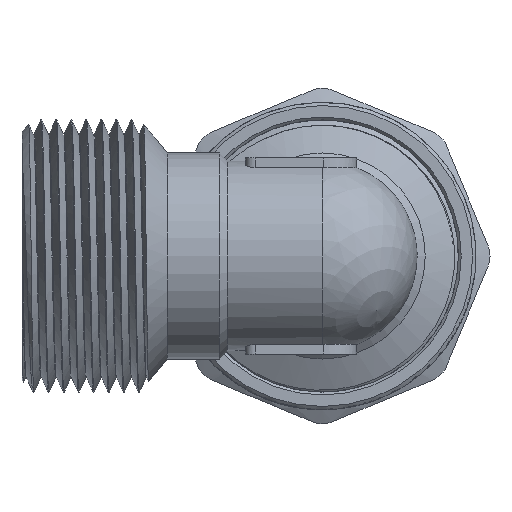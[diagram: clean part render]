
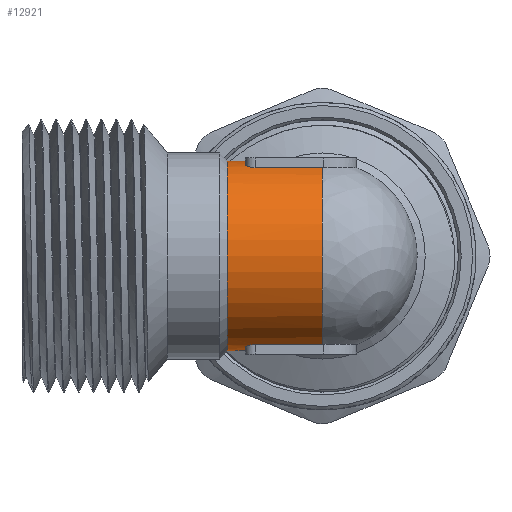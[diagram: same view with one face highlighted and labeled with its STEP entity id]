
A CAD part, left-side view. The second image highlights one B-rep face of the part: STEP entity #12921.
In plain terms, the highlighted cylindrical face has radius 14.5 mm (diameter 29 mm), a full revolution.
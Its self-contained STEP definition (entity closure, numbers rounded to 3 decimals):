
#618=ELLIPSE('',#13654,20.506,14.5);
#619=ELLIPSE('',#13657,20.506,14.5);
#662=CIRCLE('',#13616,14.5);
#663=CIRCLE('',#13618,14.5);
#682=CIRCLE('',#13659,14.5);
#690=CIRCLE('',#13671,14.5);
#1181=FACE_OUTER_BOUND('',#1893,.T.);
#1893=EDGE_LOOP('',(#9289,#9290,#9291,#9292,#9293,#9294,#9295,#9296,#9297,
#9298,#9299,#9300,#9301,#9302,#9303,#9304));
#2576=B_SPLINE_CURVE_WITH_KNOTS('',3,(#19620,#19621,#19622,#19623,#19624,
#19625,#19626,#19627,#19628,#19629),.UNSPECIFIED.,.F.,.F.,(4,2,2,2,4),(0.,
0.057,0.113,0.172,0.232),
 .UNSPECIFIED.);
#2577=B_SPLINE_CURVE_WITH_KNOTS('',3,(#19635,#19636,#19637,#19638,#19639,
#19640,#19641,#19642,#19643,#19644),.UNSPECIFIED.,.F.,.F.,(4,2,2,2,4),(-0.232,
-0.172,-0.113,-0.057,0.),
 .UNSPECIFIED.);
#2578=B_SPLINE_CURVE_WITH_KNOTS('',3,(#19661,#19662,#19663,#19664,#19665,
#19666,#19667,#19668,#19669,#19670),.UNSPECIFIED.,.F.,.F.,(4,2,2,2,4),(0.229,
0.288,0.347,0.404,0.461),
 .UNSPECIFIED.);
#2579=B_SPLINE_CURVE_WITH_KNOTS('',3,(#19674,#19675,#19676,#19677,#19678,
#19679,#19680,#19681,#19682,#19683),.UNSPECIFIED.,.F.,.F.,(4,2,2,2,4),(0.461,
0.517,0.574,0.633,0.692),
 .UNSPECIFIED.);
#2581=B_SPLINE_CURVE_WITH_KNOTS('',3,(#19701,#19702,#19703,#19704,#19705,
#19706,#19707,#19708),.UNSPECIFIED.,.F.,.F.,(4,2,2,4),(0.368,
0.371,0.427,0.483),.UNSPECIFIED.);
#2583=B_SPLINE_CURVE_WITH_KNOTS('',3,(#19720,#19721,#19722,#19723,#19724,
#19725,#19726,#19727),.UNSPECIFIED.,.F.,.F.,(4,2,2,4),(0.483,
0.539,0.595,0.598),.UNSPECIFIED.);
#3513=LINE('',#19577,#4360);
#3517=LINE('',#19586,#4364);
#3523=LINE('',#19614,#4370);
#3554=LINE('',#19830,#4401);
#4360=VECTOR('',#14710,10.);
#4364=VECTOR('',#14716,10.);
#4370=VECTOR('',#14730,10.);
#4401=VECTOR('',#14831,10.);
#5221=VERTEX_POINT('',#19575);
#5222=VERTEX_POINT('',#19576);
#5225=VERTEX_POINT('',#19584);
#5226=VERTEX_POINT('',#19585);
#5233=VERTEX_POINT('',#19611);
#5234=VERTEX_POINT('',#19613);
#5236=VERTEX_POINT('',#19619);
#5238=VERTEX_POINT('',#19634);
#5240=VERTEX_POINT('',#19649);
#5242=VERTEX_POINT('',#19655);
#5244=VERTEX_POINT('',#19673);
#5247=VERTEX_POINT('',#19689);
#5249=VERTEX_POINT('',#19710);
#5272=VERTEX_POINT('',#19827);
#5276=VERTEX_POINT('',#19854);
#6728=EDGE_CURVE('',#5221,#5222,#3513,.T.);
#6732=EDGE_CURVE('',#5225,#5226,#3517,.T.);
#6741=EDGE_CURVE('',#5234,#5233,#3523,.T.);
#6744=EDGE_CURVE('',#5222,#5236,#2576,.T.);
#6747=EDGE_CURVE('',#5238,#5225,#2577,.T.);
#6750=EDGE_CURVE('',#5236,#5240,#662,.T.);
#6753=EDGE_CURVE('',#5242,#5238,#663,.T.);
#6756=EDGE_CURVE('',#5240,#5234,#2578,.T.);
#6758=EDGE_CURVE('',#5244,#5242,#2579,.T.);
#6764=EDGE_CURVE('',#5247,#5221,#2581,.T.);
#6766=EDGE_CURVE('',#5226,#5249,#2583,.T.);
#6800=EDGE_CURVE('',#5272,#5244,#3554,.T.);
#6808=EDGE_CURVE('',#5247,#5276,#618,.T.);
#6812=EDGE_CURVE('',#5276,#5249,#619,.T.);
#6813=EDGE_CURVE('',#5272,#5233,#682,.T.);
#6830=EDGE_CURVE('',#5276,#5276,#690,.T.);
#9289=ORIENTED_EDGE('',*,*,#6766,.T.);
#9290=ORIENTED_EDGE('',*,*,#6812,.F.);
#9291=ORIENTED_EDGE('',*,*,#6830,.F.);
#9292=ORIENTED_EDGE('',*,*,#6808,.F.);
#9293=ORIENTED_EDGE('',*,*,#6764,.T.);
#9294=ORIENTED_EDGE('',*,*,#6728,.T.);
#9295=ORIENTED_EDGE('',*,*,#6744,.T.);
#9296=ORIENTED_EDGE('',*,*,#6750,.T.);
#9297=ORIENTED_EDGE('',*,*,#6756,.T.);
#9298=ORIENTED_EDGE('',*,*,#6741,.T.);
#9299=ORIENTED_EDGE('',*,*,#6813,.F.);
#9300=ORIENTED_EDGE('',*,*,#6800,.T.);
#9301=ORIENTED_EDGE('',*,*,#6758,.T.);
#9302=ORIENTED_EDGE('',*,*,#6753,.T.);
#9303=ORIENTED_EDGE('',*,*,#6747,.T.);
#9304=ORIENTED_EDGE('',*,*,#6732,.T.);
#12693=CYLINDRICAL_SURFACE('',#13670,14.5);
#12921=ADVANCED_FACE('',(#1181),#12693,.T.);
#13616=AXIS2_PLACEMENT_3D('',#19650,#14745,#14746);
#13618=AXIS2_PLACEMENT_3D('',#19656,#14751,#14752);
#13654=AXIS2_PLACEMENT_3D('',#19855,#14850,#14851);
#13657=AXIS2_PLACEMENT_3D('',#19861,#14857,#14858);
#13659=AXIS2_PLACEMENT_3D('',#19863,#14861,#14862);
#13670=AXIS2_PLACEMENT_3D('',#21228,#14884,#14885);
#13671=AXIS2_PLACEMENT_3D('',#21229,#14886,#14887);
#14710=DIRECTION('',(0.,1.,0.));
#14716=DIRECTION('',(0.,-1.,0.));
#14730=DIRECTION('',(0.,-1.,0.));
#14745=DIRECTION('center_axis',(0.,1.,0.));
#14746=DIRECTION('ref_axis',(-1.,0.,0.));
#14751=DIRECTION('center_axis',(0.,1.,0.));
#14752=DIRECTION('ref_axis',(-1.,0.,0.));
#14831=DIRECTION('',(0.,1.,0.));
#14850=DIRECTION('center_axis',(0.707,-0.707,0.));
#14851=DIRECTION('ref_axis',(-0.707,-0.707,0.));
#14857=DIRECTION('center_axis',(0.707,-0.707,0.));
#14858=DIRECTION('ref_axis',(-0.707,-0.707,0.));
#14861=DIRECTION('center_axis',(0.,-1.,0.));
#14862=DIRECTION('ref_axis',(0.,0.,1.));
#14884=DIRECTION('center_axis',(0.,1.,0.));
#14885=DIRECTION('ref_axis',(-1.,0.,0.));
#14886=DIRECTION('center_axis',(0.,1.,0.));
#14887=DIRECTION('ref_axis',(1.,0.,0.));
#19575=CARTESIAN_POINT('',(5.25,6.75,-13.516));
#19576=CARTESIAN_POINT('',(5.25,10.25,-13.516));
#19577=CARTESIAN_POINT('',(5.25,7.25,-13.516));
#19584=CARTESIAN_POINT('',(5.25,10.25,13.516));
#19585=CARTESIAN_POINT('',(5.25,6.75,13.516));
#19586=CARTESIAN_POINT('',(5.25,7.25,13.516));
#19611=CARTESIAN_POINT('',(-5.25,0.,-13.516));
#19613=CARTESIAN_POINT('',(-5.25,10.25,-13.516));
#19614=CARTESIAN_POINT('',(-5.25,7.25,-13.516));
#19619=CARTESIAN_POINT('',(3.75,11.75,-14.007));
#19620=CARTESIAN_POINT('Ctrl Pts',(5.25,10.25,-13.516));
#19621=CARTESIAN_POINT('Ctrl Pts',(5.25,10.438,-13.516));
#19622=CARTESIAN_POINT('Ctrl Pts',(5.212,10.638,-13.531));
#19623=CARTESIAN_POINT('Ctrl Pts',(5.062,11.004,-13.588));
#19624=CARTESIAN_POINT('Ctrl Pts',(4.949,11.17,-13.63));
#19625=CARTESIAN_POINT('Ctrl Pts',(4.686,11.437,-13.723));
#19626=CARTESIAN_POINT('Ctrl Pts',(4.517,11.555,-13.78));
#19627=CARTESIAN_POINT('Ctrl Pts',(4.144,11.711,-13.897));
#19628=CARTESIAN_POINT('Ctrl Pts',(3.941,11.75,-13.956));
#19629=CARTESIAN_POINT('Ctrl Pts',(3.75,11.75,-14.007));
#19634=CARTESIAN_POINT('',(3.75,11.75,14.007));
#19635=CARTESIAN_POINT('Ctrl Pts',(3.75,11.75,14.007));
#19636=CARTESIAN_POINT('Ctrl Pts',(3.941,11.75,13.956));
#19637=CARTESIAN_POINT('Ctrl Pts',(4.144,11.711,13.897));
#19638=CARTESIAN_POINT('Ctrl Pts',(4.517,11.555,13.78));
#19639=CARTESIAN_POINT('Ctrl Pts',(4.686,11.437,13.723));
#19640=CARTESIAN_POINT('Ctrl Pts',(4.949,11.17,13.63));
#19641=CARTESIAN_POINT('Ctrl Pts',(5.062,11.004,13.588));
#19642=CARTESIAN_POINT('Ctrl Pts',(5.212,10.638,13.531));
#19643=CARTESIAN_POINT('Ctrl Pts',(5.25,10.438,13.516));
#19644=CARTESIAN_POINT('Ctrl Pts',(5.25,10.25,13.516));
#19649=CARTESIAN_POINT('',(-3.75,11.75,-14.007));
#19650=CARTESIAN_POINT('Origin',(0.,11.75,0.));
#19655=CARTESIAN_POINT('',(-3.75,11.75,14.007));
#19656=CARTESIAN_POINT('Origin',(0.,11.75,0.));
#19661=CARTESIAN_POINT('Ctrl Pts',(-3.75,11.75,-14.007));
#19662=CARTESIAN_POINT('Ctrl Pts',(-3.941,11.75,-13.956));
#19663=CARTESIAN_POINT('Ctrl Pts',(-4.144,11.711,-13.897));
#19664=CARTESIAN_POINT('Ctrl Pts',(-4.517,11.555,-13.78));
#19665=CARTESIAN_POINT('Ctrl Pts',(-4.686,11.437,-13.723));
#19666=CARTESIAN_POINT('Ctrl Pts',(-4.949,11.17,-13.63));
#19667=CARTESIAN_POINT('Ctrl Pts',(-5.062,11.004,-13.588));
#19668=CARTESIAN_POINT('Ctrl Pts',(-5.212,10.638,-13.531));
#19669=CARTESIAN_POINT('Ctrl Pts',(-5.25,10.438,-13.516));
#19670=CARTESIAN_POINT('Ctrl Pts',(-5.25,10.25,-13.516));
#19673=CARTESIAN_POINT('',(-5.25,10.25,13.516));
#19674=CARTESIAN_POINT('Ctrl Pts',(-5.25,10.25,13.516));
#19675=CARTESIAN_POINT('Ctrl Pts',(-5.25,10.438,13.516));
#19676=CARTESIAN_POINT('Ctrl Pts',(-5.212,10.638,13.531));
#19677=CARTESIAN_POINT('Ctrl Pts',(-5.062,11.004,13.588));
#19678=CARTESIAN_POINT('Ctrl Pts',(-4.949,11.17,13.63));
#19679=CARTESIAN_POINT('Ctrl Pts',(-4.686,11.437,13.723));
#19680=CARTESIAN_POINT('Ctrl Pts',(-4.517,11.555,13.78));
#19681=CARTESIAN_POINT('Ctrl Pts',(-4.144,11.711,13.897));
#19682=CARTESIAN_POINT('Ctrl Pts',(-3.941,11.75,13.956));
#19683=CARTESIAN_POINT('Ctrl Pts',(-3.75,11.75,14.007));
#19689=CARTESIAN_POINT('',(5.689,5.689,-13.337));
#19701=CARTESIAN_POINT('Ctrl Pts',(5.689,5.689,-13.337));
#19702=CARTESIAN_POINT('Ctrl Pts',(5.683,5.696,-13.34));
#19703=CARTESIAN_POINT('Ctrl Pts',(5.677,5.702,-13.343));
#19704=CARTESIAN_POINT('Ctrl Pts',(5.546,5.838,-13.398));
#19705=CARTESIAN_POINT('Ctrl Pts',(5.435,6.002,-13.443));
#19706=CARTESIAN_POINT('Ctrl Pts',(5.287,6.365,-13.502));
#19707=CARTESIAN_POINT('Ctrl Pts',(5.25,6.563,-13.516));
#19708=CARTESIAN_POINT('Ctrl Pts',(5.25,6.75,-13.516));
#19710=CARTESIAN_POINT('',(5.689,5.689,13.337));
#19720=CARTESIAN_POINT('Ctrl Pts',(5.25,6.75,13.516));
#19721=CARTESIAN_POINT('Ctrl Pts',(5.25,6.563,13.516));
#19722=CARTESIAN_POINT('Ctrl Pts',(5.287,6.365,13.502));
#19723=CARTESIAN_POINT('Ctrl Pts',(5.435,6.002,13.443));
#19724=CARTESIAN_POINT('Ctrl Pts',(5.546,5.838,13.398));
#19725=CARTESIAN_POINT('Ctrl Pts',(5.677,5.702,13.343));
#19726=CARTESIAN_POINT('Ctrl Pts',(5.683,5.696,13.34));
#19727=CARTESIAN_POINT('Ctrl Pts',(5.689,5.689,13.337));
#19827=CARTESIAN_POINT('',(-5.25,0.,13.516));
#19830=CARTESIAN_POINT('',(-5.25,7.25,13.516));
#19854=CARTESIAN_POINT('',(14.5,14.5,0.));
#19855=CARTESIAN_POINT('Origin',(0.,0.,0.));
#19861=CARTESIAN_POINT('Origin',(0.,0.,0.));
#19863=CARTESIAN_POINT('Origin',(0.,0.,
0.));
#21228=CARTESIAN_POINT('Origin',(0.,7.25,0.));
#21229=CARTESIAN_POINT('Origin',(0.,14.5,0.));
